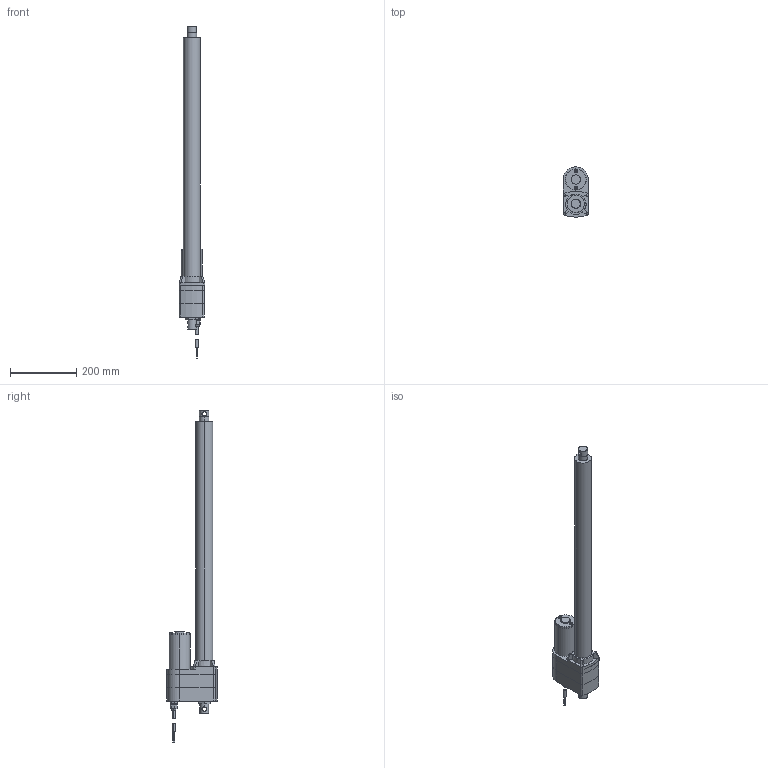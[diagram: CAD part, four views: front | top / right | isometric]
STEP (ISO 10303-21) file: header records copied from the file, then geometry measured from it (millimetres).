
FILE_DESCRIPTION (( 'STEP AP203' ), '1' );
FILE_NAME ('LA5_ACME_24_POT.step', '2021-02-24T15:19:08', ( '' ), ( '' ), 'SwSTEP 2.0', 'SolidWorks 2017', '' );
FILE_SCHEMA (( 'CONFIG_CONTROL_DESIGN' ));
Length unit declared in the file: millimetre
Products named in the file (1): LA5_ACME_24_POT
Bounding box: 77.22 x 151.29 x 1000.46 mm (x, y, z)
Volume: 2996911 mm3; surface area: 277821.4 mm2
Topology: 14 solids, 14 shells, 333 faces, 716 edges, 446 vertices
Faces by surface type: plane 160, cylinder 113, cone 24, bspline 22, torus 10, sphere 4
Entity records: 11050 total; most frequent: CARTESIAN_POINT 3684, DIRECTION 1573, ORIENTED_EDGE 1432, EDGE_CURVE 716, AXIS2_PLACEMENT_3D 615, VERTEX_POINT 446, EDGE_LOOP 376, LINE 343
